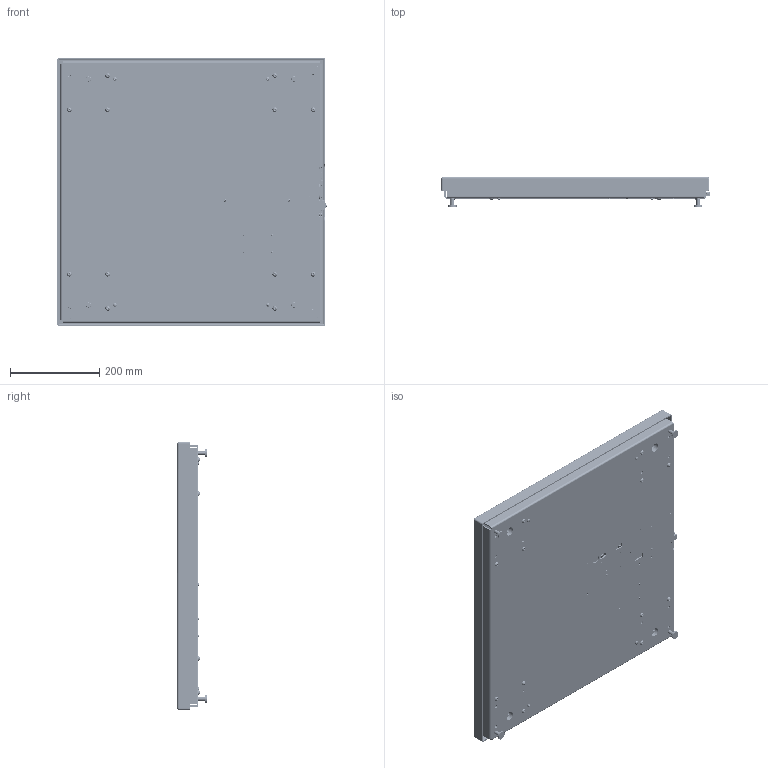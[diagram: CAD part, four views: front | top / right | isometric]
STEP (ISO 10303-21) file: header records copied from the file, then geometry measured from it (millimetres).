
FILE_DESCRIPTION (( 'STEP AP214' ), '1' );
FILE_NAME ('E-SCALE-6500PB-2424-660.STEP', '2019-08-27T23:21:38', ( '' ), ( '' ), 'SwSTEP 2.0', 'SolidWorks 2017', '' );
FILE_SCHEMA (( 'AUTOMOTIVE_DESIGN' ));
Length unit declared in the file: millimetre
Products named in the file (71): hex nut style 1_am_B18.2.4.1M - Hex nut, Style 1,  M2 x 0.4 --D-N; 0018546; 0075232_80-001903; 0530-0853-01-0; Phoenix_1803345; E-SCALE-6500PB-2424-660; Phoenix_1803316; Phoenix_1803617; 0075230_91780A198; 0530-0856-01-0; Phoenix_1754452; flat washer type a selected narrow_ai_Selected Narrow FW 0.125; pan head cross recess screw_din_DIN EN ISO 7045 - M2.5 x 12 - Z - 12N; flat head screw_ai_CR-FHMS 0.164-32x0.875x0.875-N-A2.70; pan cross head_am_B18.6.7M - M2 x 0.4 x 8 Type I Cross Recessed PHMS --8N; Phoenix_1754465; 0075295; thru-hole standoff_pmi_PEM SO-440-4 ZI--N; Tyco_c-1-6605752-1-d-3d; Phoenix 1778609; 2813-0084; 0075290; 0509-0543-01-0; 2143-T013; 2815-0179-0_91780A166; 2814-T011_90631A005; 0074757_Modified By Hardy; 0075198; pan cross head_ai_CR-PHMS 0.112-40x0.3125x0.3125-N; 0075175_84-001319; 2815-0178-0_92710A203; 0075287_C2 CHIP; 0514-0241-01-0_Rev A; socket head cap screw_am_B18.3.1M - 5 x 0.8 x 20 Hex SHCS -- 20NHX-A2.70; 0074904; 2814-0100-0_93625A102; 0534-0564-01-0; Norcomp_170-009-272L000; 0074535; 2817-0272-0_90402A146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
Assembly tree (133 placements, depth 4):
  E-SCALE-6500PB-2424-660
    0074904
      0074915_Modified By Hardy_Default<As Machined>
      0074918  x4
      0078239
    0075309
    0075175_84-001319  x4
      0075172_A6
      0075174_6
      0075173_B6
    hex jam nut_ai_HJNUT 0.2500-20-D-N  x4
    0074757_Modified By Hardy
    0075198  x4
    0075200_93505A451  x4
    0075290
      0075233
      0018546  x4
      0075287_C2 CHIP
      0075295  x4
        0075294
        0075293
    pan cross head_ai_CR-PHMS 0.164-32x0.3125x0.3125-N-A2.70  x4
    0074536  x4
      0074534
      0074535
      0067067
      socket head cap screw_am_B18.3.1M - 5 x 0.8 x 20 Hex SHCS -- 20NHX-A2.70
    0075231_PBSH-300kg 600 X 600  x4
      0075230_91780A198
      0075232_80-001903
      flat head screw_ai_CR-FHMS 0.164-32x0.875x0.875-N-A2.70
      pan cross head_ai_CR-PHMS 0.164-32x0.3125x0.3125-N-A2.70
    socket button head cap screw_am_B18.3.4M - 6 x 1.0 x 20 SBHCS --N-A2.70  x12
    2814-0098-0_90633A007  x2
    2817-0272-0_90402A146
    2143-T004  x2
    2143-T013
    flat washer type a selected narrow_ai_Selected Narrow FW 0.125  x3
    2814-T011_90631A005
    6500 EIP Complete Board With Connectors
      0534-0564-01-0
      Phoenix 1778609
      Phoenix_1754452
      Chassis fastener Winchester Electronics A1591B  x2
      Phoenix_1803316
      Tyco_c-1-6605752-1-d-3d
      USB Connector Female
      Phoenix_1803345
      Phoenix_1754465
      Phoenix_1803617
      Phoenix_1803646
    2815-0179-0_91780A166  x2
    pan cross head_ai_CR-PHMS 0.112-40x0.3125x0.3125-N  x4
    0514-0241-01-0_Rev A
    0509-0542-01-0
    pan cross head_am_B18.6.7M - M2 x 0.4 x 8 Type I Cross Recessed PHMS --8N  x2
    2813-0155-0_93475A195  x2
    curved spring lock washer_din_Spring washer DIN 128 - A2  x2
    hex nut style 1_am_B18.2.4.1M - Hex nut, Style 1,  M2 x 0.4 --D-N  x2
    2140-0128-0
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Bounding box: 603.77 x 66.39 x 600 mm (x, y, z)
Volume: 3055580.5 mm3; surface area: 2006740.8 mm2
Topology: 691 solids, 691 shells, 20789 faces, 53363 edges, 34607 vertices
Faces by surface type: plane 10937, bspline 5160, cylinder 3318, cone 1100, torus 204, sphere 70
Entity records: 709823 total; most frequent: CARTESIAN_POINT 190589, ORIENTED_EDGE 88704, DIRECTION 61188, EDGE_CURVE 44352, VERTEX_POINT 29093, LINE 27898, VECTOR 27898, EDGE_LOOP 18453
